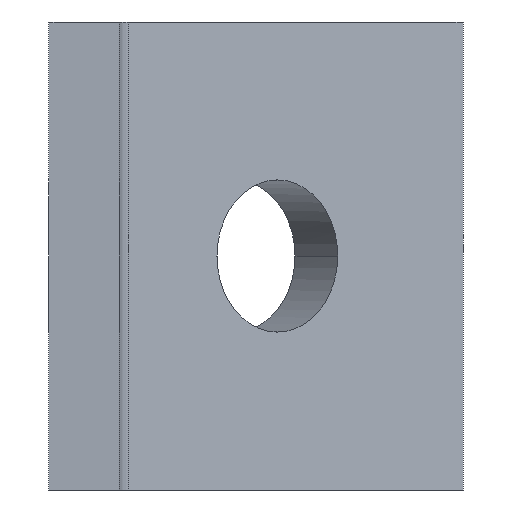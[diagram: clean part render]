
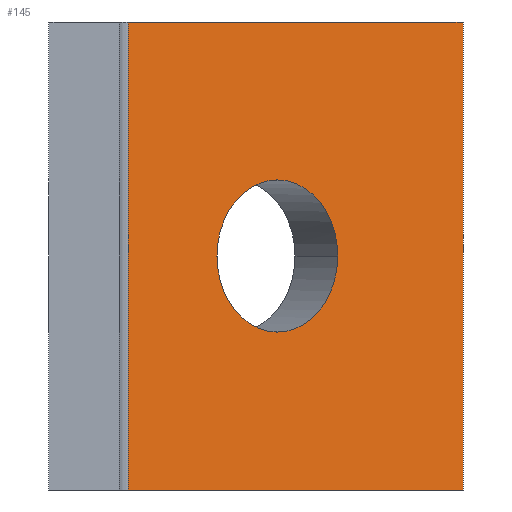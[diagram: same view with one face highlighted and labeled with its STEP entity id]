
A CAD part, left-side view. The second image highlights one B-rep face of the part: STEP entity #145.
In plain terms, the highlighted planar face has unit normal (-0.793, -0.609, 0).
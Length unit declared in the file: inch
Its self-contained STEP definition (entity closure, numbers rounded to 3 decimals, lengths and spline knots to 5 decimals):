
#75=EDGE_CURVE('',#184,#185,#186,.T.);
#119=EDGE_CURVE('',#217,#185,#250,.T.);
#129=EDGE_CURVE('',#264,#217,#265,.T.);
#133=EDGE_CURVE('',#264,#184,#269,.T.);
#145=ADVANCED_FACE('',(#282,#283),#284,.T.);
#184=VERTEX_POINT('',#326);
#185=VERTEX_POINT('',#327);
#186=LINE('',#328,#329);
#217=VERTEX_POINT('',#390);
#250=LINE('',#462,#463);
#264=VERTEX_POINT('',#494);
#265=LINE('',#495,#496);
#269=LINE('',#503,#504);
#282=FACE_BOUND('',#524,.T.);
#283=FACE_OUTER_BOUND('',#525,.T.);
#284=PLANE('',#526);
#326=CARTESIAN_POINT('',(2.04969,-0.91834,1.25));
#327=CARTESIAN_POINT('',(1.36379,-0.02445,1.25));
#328=CARTESIAN_POINT('',(2.04969,-0.91834,1.25));
#329=VECTOR('',#564,1.);
#390=CARTESIAN_POINT('',(1.36379,-0.02445,0.0));
#462=CARTESIAN_POINT('',(1.36379,-0.02445,0.0));
#463=VECTOR('',#644,1.0);
#494=CARTESIAN_POINT('',(2.04969,-0.91834,0.0));
#495=CARTESIAN_POINT('',(2.04969,-0.91834,0.0));
#496=VECTOR('',#668,1.);
#503=CARTESIAN_POINT('',(2.04969,-0.91834,0.0));
#504=VECTOR('',#670,1.0);
#524=EDGE_LOOP('',(#687,#688,#689,#690));
#525=EDGE_LOOP('',(#691,#692,#693,#694));
#526=AXIS2_PLACEMENT_3D('',#695,#696,#697);
#564=DIRECTION('',(-0.609,0.793,0.0));
#644=DIRECTION('',(0.0,0.0,1.0));
#668=DIRECTION('',(-0.609,0.793,0.0));
#670=DIRECTION('',(0.0,0.0,1.0));
#687=ORIENTED_EDGE('',*,*,#734,.T.);
#688=ORIENTED_EDGE('',*,*,#728,.T.);
#689=ORIENTED_EDGE('',*,*,#719,.T.);
#690=ORIENTED_EDGE('',*,*,#732,.T.);
#691=ORIENTED_EDGE('',*,*,#75,.T.);
#692=ORIENTED_EDGE('',*,*,#119,.F.);
#693=ORIENTED_EDGE('',*,*,#129,.F.);
#694=ORIENTED_EDGE('',*,*,#133,.T.);
#695=CARTESIAN_POINT('',(1.70674,-0.47139,0.0));
#696=DIRECTION('',(-0.793,-0.609,0.0));
#697=DIRECTION('',(0.609,-0.793,-0.0));
#719=EDGE_CURVE('',#771,#769,#772,.T.);
#728=EDGE_CURVE('',#783,#771,#784,.T.);
#732=EDGE_CURVE('',#769,#787,#789,.T.);
#734=EDGE_CURVE('',#787,#783,#791,.T.);
#769=VERTEX_POINT('',#888);
#771=VERTEX_POINT('',#891);
#772=B_SPLINE_CURVE_WITH_KNOTS('',3,(#892,#893,#894,#895),.UNSPECIFIED.,.F.,.F.,(4,4),(-1.0,-0.0),.UNSPECIFIED.);
#783=VERTEX_POINT('',#916);
#784=B_SPLINE_CURVE_WITH_KNOTS('',3,(#917,#918,#919,#920),.UNSPECIFIED.,.F.,.F.,(4,4),(-1.0,-0.0),.UNSPECIFIED.);
#787=VERTEX_POINT('',#924);
#789=B_SPLINE_CURVE_WITH_KNOTS('',3,(#927,#928,#929,#930),.UNSPECIFIED.,.F.,.F.,(4,4),(-1.0,-0.0),.UNSPECIFIED.);
#791=B_SPLINE_CURVE_WITH_KNOTS('',3,(#932,#933,#934,#935),.UNSPECIFIED.,.F.,.F.,(4,4),(-1.0,-0.0),.UNSPECIFIED.);
#888=CARTESIAN_POINT('',(1.54556,-0.26134,0.625));
#891=CARTESIAN_POINT('',(1.66922,-0.42249,0.42187));
#892=CARTESIAN_POINT('',(1.66922,-0.42249,0.42187));
#893=CARTESIAN_POINT('',(1.60093,-0.33349,0.42187));
#894=CARTESIAN_POINT('',(1.54556,-0.26134,0.51282));
#895=CARTESIAN_POINT('',(1.54556,-0.26134,0.625));
#916=CARTESIAN_POINT('',(1.79287,-0.58364,0.625));
#917=CARTESIAN_POINT('',(1.79287,-0.58364,0.625));
#918=CARTESIAN_POINT('',(1.79287,-0.58364,0.51282));
#919=CARTESIAN_POINT('',(1.73751,-0.51149,0.42187));
#920=CARTESIAN_POINT('',(1.66922,-0.42249,0.42187));
#924=CARTESIAN_POINT('',(1.66922,-0.42249,0.82813));
#927=CARTESIAN_POINT('',(1.54556,-0.26134,0.625));
#928=CARTESIAN_POINT('',(1.54556,-0.26134,0.73718));
#929=CARTESIAN_POINT('',(1.60093,-0.33349,0.82813));
#930=CARTESIAN_POINT('',(1.66922,-0.42249,0.82813));
#932=CARTESIAN_POINT('',(1.66922,-0.42249,0.82813));
#933=CARTESIAN_POINT('',(1.73751,-0.51149,0.82813));
#934=CARTESIAN_POINT('',(1.79287,-0.58364,0.73718));
#935=CARTESIAN_POINT('',(1.79287,-0.58364,0.625));
